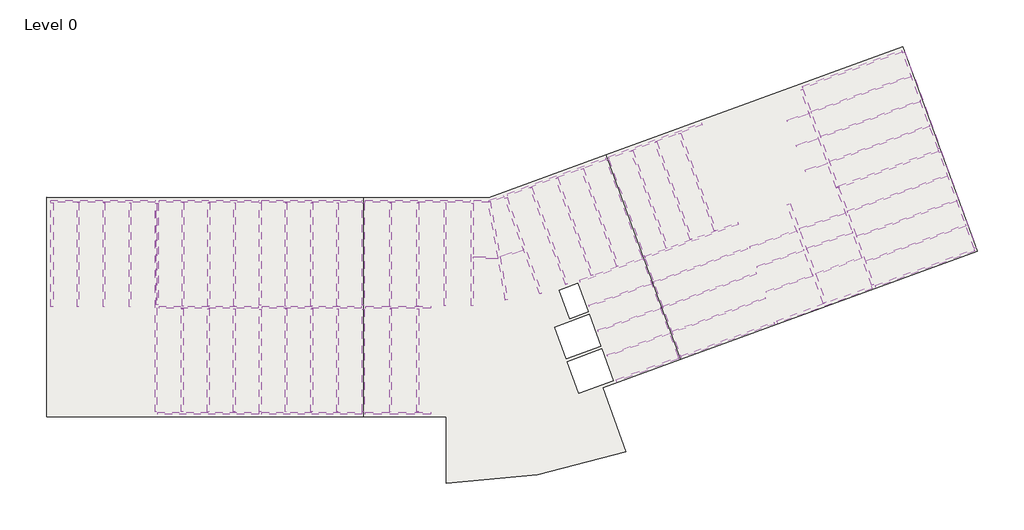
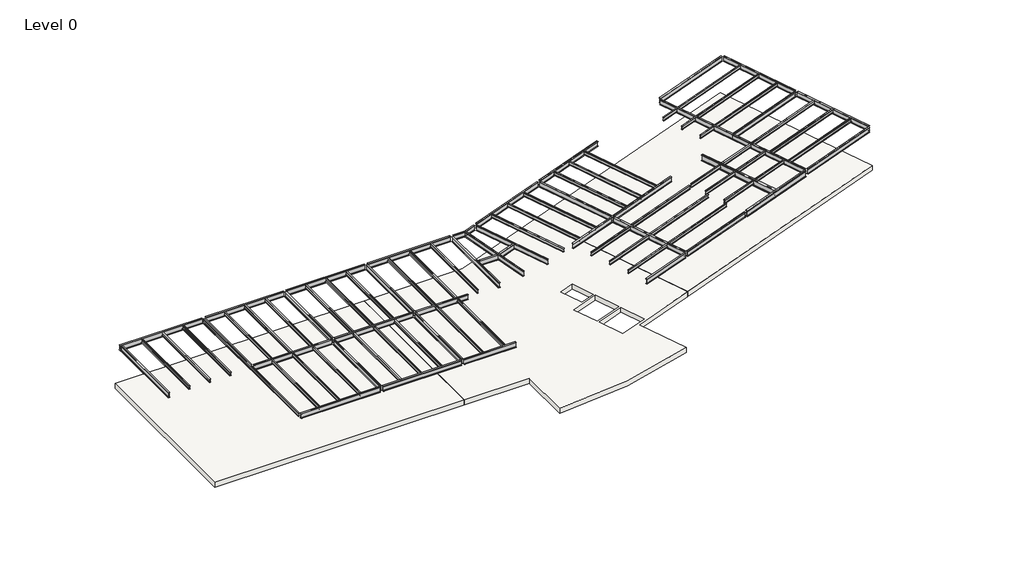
# One storey: 87 beams, 1 slab.
"""IFC4 building model written with IfcOpenShell, lengths in millimetres."""

from ifc_helpers import new_model, si_unit, point, frame, frame_2d, origin, place, context, project, spatial, polyline, circle_curve, trimmed, segment, composite_curve, outline, extrude, transform, mapped, element, save
from components import beam_8f258079, ub_universal_beams_d270934e, ub_universal_beams_e915e172, ub_universal_beams_a95554c7, ub_universal_beams_b6dbdd7a, ub_universal_beams_9ada3ad7, ub_universal_beams_885cc86f, ub_universal_beams_c84566a2, ub_universal_beams_4841b023, ub_universal_beams_bb2d3bd6, ub_universal_beams_20791346, ub_universal_beams_18d3feb0, ub_universal_beams_59459dd6, ub_universal_beams_568b5c51, ub_universal_beams_e00400c9, ub_universal_beams_14baedf7, ub_universal_beams_54dd217e, ub_universal_beams_f823aa85, ub_universal_beams_cdbcbb51, ub_universal_beams_2db27d90, ub_universal_beams_feb0265b, ub_universal_beams_78ad538f, ub_universal_beams_801fcbf0, ub_universal_beams_c91190e6, ub_universal_beams_7192e0ee, ub_universal_beams_e0a47d06, ub_universal_beams_f5dc209c, ub_universal_beams_f862a4b8, ub_universal_beams_0fc11a2d, ub_universal_beams_656765b2, ub_universal_beams_21f5ef47, ub_universal_beams_7b4bcd9a, ub_universal_beams_8d1efc97, ub_universal_beams_2b7a043a, ub_universal_beams_8d2b0bf5, ub_universal_beams_37de3949, ub_universal_beams_43212cfb, ub_universal_beams_777f85ab, ub_universal_beams_8ec85ef7, ub_universal_beams_16a75a32, ub_universal_beams_b9a7bbe5, ub_universal_beams_60794b88, ub_universal_beams_0c249d50

model = new_model("IFC4")

# Units and contexts
model_context = context("Model", 3, world=origin())
ifc_project = project(units=[si_unit("LENGTHUNIT", "METRE", prefix="MILLI")], contexts=[model_context])

# Site, building, storey
site = spatial("IfcSite", under=ifc_project)
building = spatial("IfcBuilding", under=site)
storey = spatial("IfcBuildingStorey", under=building, Name="Level 0", Elevation=0.0)

# Beams
placement = place(None, origin())
beam_shape = beam_8f258079(model_context)
element("IfcBeam", 1, ObjectType="Cranked Beam B1 : Cranked Beam B1", at=placement, inside=storey, context=model_context, shape_type="MappedRepresentation", body=[
    mapped(beam_shape, transform((0.0, 0.0, 0.0), x_axis=(1.0, 0.0, 0.0), y_axis=(0.0, 1.0, 0.0), z_axis=(0.0, 0.0, 1.0))),
])
ub_universal_beams_shape = ub_universal_beams_d270934e(model_context)
element("IfcBeam", 2, ObjectType="UB-Universal Beams : UB 18\" x 6\" x 2 1/2\"", at=placement, inside=storey, context=model_context, shape_type="MappedRepresentation", body=[
    mapped(ub_universal_beams_shape, transform((4212.2000022, 15363.2000005, 3466.0), x_axis=(1.0, 0.0, 0.0), y_axis=(0.0, 1.0, 0.0), z_axis=(0.0, 0.0, 1.0))),
])
ub_universal_beams_2_shape = ub_universal_beams_e915e172(model_context)
element("IfcBeam", 3, ObjectType="UB-Universal Beams : UB 18\" x 6\" x 2 1/2\"", at=placement, inside=storey, context=model_context, shape_type="MappedRepresentation", body=[
    mapped(ub_universal_beams_2_shape, transform((11712.2000023, 15363.2000005, 3466.0), x_axis=(1.0, 0.0, 0.0), y_axis=(0.0, 1.0, 0.0), z_axis=(0.0, 0.0, 1.0))),
])
ub_universal_beams_3_shape = ub_universal_beams_a95554c7(model_context)
element("IfcBeam", 4, ObjectType="UB-Universal Beams : UB 18\" x 6\" x 2 1/2\"", at=placement, inside=storey, context=model_context, shape_type="MappedRepresentation", body=[
    mapped(ub_universal_beams_3_shape, transform((19012.2000023, 15363.2000005, 3466.0), x_axis=(1.0, 0.0, 0.0), y_axis=(0.0, 1.0, 0.0), z_axis=(0.0, 0.0, 1.0))),
])
element("IfcBeam", 5, ObjectType="UB-Universal Beams : UB 18\" x 6\" x 2 1/2\"", at=placement, inside=storey, context=model_context, shape_type="MappedRepresentation", body=[
    mapped(ub_universal_beams_3_shape, transform((19012.2000022, 363.2000005, 3466.0), x_axis=(1.0, 0.0, 0.0), y_axis=(0.0, 1.0, 0.0), z_axis=(0.0, 0.0, 1.0))),
])
ub_universal_beams_4_shape = ub_universal_beams_b6dbdd7a(model_context)
element("IfcBeam", 6, ObjectType="UB-Universal Beams : UB 18\" x 6\" x 2 1/2\"", at=placement, inside=storey, context=model_context, shape_type="MappedRepresentation", body=[
    mapped(ub_universal_beams_4_shape, transform((26512.2000022, 15363.2000005, 3466.0), x_axis=(1.0, 0.0, 0.0), y_axis=(0.0, 1.0, 0.0), z_axis=(0.0, 0.0, 1.0))),
])
ub_universal_beams_5_shape = ub_universal_beams_9ada3ad7(model_context)
element("IfcBeam", 7, ObjectType="UB-Universal Beams : UB 18\" x 6\" x 2 1/2\"", at=placement, inside=storey, context=model_context, shape_type="MappedRepresentation", body=[
    mapped(ub_universal_beams_5_shape, transform((11674.7000023, 7863.2000004, 3466.0), x_axis=(-1.0, 0.0, 0.0), y_axis=(0.0, -1.0, 0.0), z_axis=(0.0, 0.0, 1.0))),
])
ub_universal_beams_6_shape = ub_universal_beams_885cc86f(model_context)
element("IfcBeam", 8, ObjectType="UB-Universal Beams : UB 18\" x 6\" x 2 1/2\"", at=placement, inside=storey, context=model_context, shape_type="MappedRepresentation", body=[
    mapped(ub_universal_beams_6_shape, transform((11674.7000023, 363.2000005, 3466.0), x_axis=(-1.0, 0.0, 0.0), y_axis=(0.0, -1.0, 0.0), z_axis=(0.0, 0.0, 1.0))),
])
ub_universal_beams_7_shape = ub_universal_beams_c84566a2(model_context)
element("IfcBeam", 9, ObjectType="UB-Universal Beams : UB 18\" x 6\" x 2 1/2\"", at=placement, inside=storey, context=model_context, shape_type="MappedRepresentation", body=[
    mapped(ub_universal_beams_7_shape, transform((19012.2000023, 7863.2000004, 3466.0), x_axis=(1.0, 0.0, 0.0), y_axis=(0.0, 1.0, 0.0), z_axis=(0.0, 0.0, 1.0))),
])
ub_universal_beams_8_shape = ub_universal_beams_4841b023(model_context)
element("IfcBeam", 10, ObjectType="UB-Universal Beams : UB 18\" x 6\" x 2 1/2\"", at=placement, inside=storey, context=model_context, shape_type="MappedRepresentation", body=[
    mapped(ub_universal_beams_8_shape, transform((25112.2000025, 7863.2000004, 3466.0), x_axis=(1.0, 0.0, 0.0), y_axis=(0.0, 1.0, 0.0), z_axis=(0.0, 0.0, 1.0))),
])
ub_universal_beams_9_shape = ub_universal_beams_bb2d3bd6(model_context)
element("IfcBeam", 11, ObjectType="UB-Universal Beams : UB 18\" x 6\" x 2 1/2\"", at=placement, inside=storey, context=model_context, shape_type="MappedRepresentation", body=[
    mapped(ub_universal_beams_9_shape, transform((614.1000027, 11575.7000004, 3466.0), x_axis=(0.0, 1.0, 0.0), y_axis=(-1.0, 0.0, 0.0), z_axis=(0.0, 0.0, 1.0))),
])
ub_universal_beams_10_shape = ub_universal_beams_20791346(model_context)
element("IfcBeam", 12, ObjectType="UB-Universal Beams : UB 18\" x 6\" x 2 1/2\"", at=placement, inside=storey, context=model_context, shape_type="MappedRepresentation", body=[
    mapped(ub_universal_beams_10_shape, transform((25112.2000025, 363.2000005, 3466.0), x_axis=(1.0, 0.0, 0.0), y_axis=(0.0, 1.0, 0.0), z_axis=(0.0, 0.0, 1.0))),
])
ub_universal_beams_11_shape = ub_universal_beams_18d3feb0(model_context)
element("IfcBeam", 13, ObjectType="UB-Universal Beams : UB 18\" x 6\" x 2 1/2\"", at=placement, inside=storey, context=model_context, shape_type="MappedRepresentation", body=[
    mapped(ub_universal_beams_11_shape, transform((8062.2000022, 11613.2000005, 3466.0), x_axis=(0.0, 1.0, 0.0), y_axis=(-1.0, 0.0, 0.0), z_axis=(0.0, 0.0, 1.0))),
])
ub_universal_beams_12_shape = ub_universal_beams_59459dd6(model_context)
element("IfcBeam", 14, ObjectType="UB-Universal Beams : UB 18\" x 6\" x 2 1/2\"", at=placement, inside=storey, context=model_context, shape_type="MappedRepresentation", body=[
    mapped(ub_universal_beams_12_shape, transform((15362.2000023, 4113.2000005, 3466.0), x_axis=(0.0, 1.0, 0.0), y_axis=(-1.0, 0.0, 0.0), z_axis=(0.0, 0.0, 1.0))),
])
element("IfcBeam", 15, ObjectType="UB-Universal Beams : UB 18\" x 6\" x 2 1/2\"", at=placement, inside=storey, context=model_context, shape_type="MappedRepresentation", body=[
    mapped(ub_universal_beams_12_shape, transform((22662.2000022, 4113.2000005, 3466.0), x_axis=(0.0, 1.0, 0.0), y_axis=(-1.0, 0.0, 0.0), z_axis=(0.0, 0.0, 1.0))),
])
ub_universal_beams_13_shape = ub_universal_beams_568b5c51(model_context)
element("IfcBeam", 16, ObjectType="UB-Universal Beams : UB 18\" x 6\" x 2 1/2\"", at=placement, inside=storey, context=model_context, shape_type="MappedRepresentation", body=[
    mapped(ub_universal_beams_13_shape, transform((15362.2000023, 11613.2000005, 3466.0), x_axis=(0.0, 1.0, 0.0), y_axis=(-1.0, 0.0, 0.0), z_axis=(0.0, 0.0, 1.0))),
])
element("IfcBeam", 17, ObjectType="UB-Universal Beams : UB 18\" x 6\" x 2 1/2\"", at=placement, inside=storey, context=model_context, shape_type="MappedRepresentation", body=[
    mapped(ub_universal_beams_13_shape, transform((22662.2000022, 11613.2000005, 3466.0), x_axis=(0.0, 1.0, 0.0), y_axis=(-1.0, 0.0, 0.0), z_axis=(0.0, 0.0, 1.0))),
])
ub_universal_beams_14_shape = ub_universal_beams_e00400c9(model_context)
element("IfcBeam", 18, ObjectType="UB-Universal Beams : UB 18\" x 6\" x 2 1/2\"", at=placement, inside=storey, context=model_context, shape_type="MappedRepresentation", body=[
    mapped(ub_universal_beams_14_shape, transform((30362.2000022, 11613.2000005, 3466.0), x_axis=(0.0, 1.0, 0.0), y_axis=(-1.0, 0.0, 0.0), z_axis=(0.0, 0.0, 1.0))),
])
ub_universal_beams_15_shape = ub_universal_beams_14baedf7(model_context)
element("IfcBeam", 19, ObjectType="UB-Universal Beams : UB 12\" x 5\" x 1 1/2\"", at=placement, inside=storey, context=model_context, shape_type="MappedRepresentation", body=[
    mapped(ub_universal_beams_15_shape, transform((2457.6125027, 11575.7000004, 3542.8), x_axis=(0.0, 1.0, 0.0), y_axis=(-1.0, 0.0, 0.0), z_axis=(0.0, 0.0, 1.0))),
])
element("IfcBeam", 20, ObjectType="UB-Universal Beams : UB 12\" x 5\" x 1 1/2\"", at=placement, inside=storey, context=model_context, shape_type="MappedRepresentation", body=[
    mapped(ub_universal_beams_15_shape, transform((4301.1250026, 11575.7000004, 3542.8), x_axis=(0.0, 1.0, 0.0), y_axis=(-1.0, 0.0, 0.0), z_axis=(0.0, 0.0, 1.0))),
])
element("IfcBeam", 21, ObjectType="UB-Universal Beams : UB 12\" x 5\" x 1 1/2\"", at=placement, inside=storey, context=model_context, shape_type="MappedRepresentation", body=[
    mapped(ub_universal_beams_15_shape, transform((6144.6375025, 11575.7000005, 3542.8), x_axis=(0.0, 1.0, 0.0), y_axis=(-1.0, 0.0, 0.0), z_axis=(0.0, 0.0, 1.0))),
])
ub_universal_beams_16_shape = ub_universal_beams_54dd217e(model_context)
element("IfcBeam", 22, ObjectType="UB-Universal Beams : UB 12\" x 5\" x 1 1/2\"", at=placement, inside=storey, context=model_context, shape_type="MappedRepresentation", body=[
    mapped(ub_universal_beams_16_shape, transform((7988.1500025, 7863.2000005, 3542.8), x_axis=(0.0, 1.0, 0.0), y_axis=(-1.0, 0.0, 0.0), z_axis=(0.0, 0.0, 1.0))),
])
ub_universal_beams_17_shape = ub_universal_beams_f823aa85(model_context)
element("IfcBeam", 23, ObjectType="UB-Universal Beams : UB 12\" x 5\" x 1 1/2\"", at=placement, inside=storey, context=model_context, shape_type="MappedRepresentation", body=[
    mapped(ub_universal_beams_17_shape, transform((9831.6625024, 4113.2000005, 3542.8), x_axis=(0.0, 1.0, 0.0), y_axis=(-1.0, 0.0, 0.0), z_axis=(0.0, 0.0, 1.0))),
])
element("IfcBeam", 24, ObjectType="UB-Universal Beams : UB 12\" x 5\" x 1 1/2\"", at=placement, inside=storey, context=model_context, shape_type="MappedRepresentation", body=[
    mapped(ub_universal_beams_17_shape, transform((11675.1750024, 4113.2000005, 3542.8), x_axis=(0.0, 1.0, 0.0), y_axis=(-1.0, 0.0, 0.0), z_axis=(0.0, 0.0, 1.0))),
])
element("IfcBeam", 25, ObjectType="UB-Universal Beams : UB 12\" x 5\" x 1 1/2\"", at=placement, inside=storey, context=model_context, shape_type="MappedRepresentation", body=[
    mapped(ub_universal_beams_17_shape, transform((13518.6875023, 4113.2000005, 3542.8), x_axis=(0.0, 1.0, 0.0), y_axis=(-1.0, 0.0, 0.0), z_axis=(0.0, 0.0, 1.0))),
])
element("IfcBeam", 26, ObjectType="UB-Universal Beams : UB 12\" x 5\" x 1 1/2\"", at=placement, inside=storey, context=model_context, shape_type="MappedRepresentation", body=[
    mapped(ub_universal_beams_17_shape, transform((9887.2000022, 11613.2000005, 3542.8), x_axis=(0.0, 1.0, 0.0), y_axis=(-1.0, 0.0, 0.0), z_axis=(0.0, 0.0, 1.0))),
])
element("IfcBeam", 27, ObjectType="UB-Universal Beams : UB 12\" x 5\" x 1 1/2\"", at=placement, inside=storey, context=model_context, shape_type="MappedRepresentation", body=[
    mapped(ub_universal_beams_17_shape, transform((11712.2000022, 11613.2000005, 3542.8), x_axis=(0.0, 1.0, 0.0), y_axis=(-1.0, 0.0, 0.0), z_axis=(0.0, 0.0, 1.0))),
])
element("IfcBeam", 28, ObjectType="UB-Universal Beams : UB 12\" x 5\" x 1 1/2\"", at=placement, inside=storey, context=model_context, shape_type="MappedRepresentation", body=[
    mapped(ub_universal_beams_17_shape, transform((13537.2000023, 11613.2000005, 3542.8), x_axis=(0.0, 1.0, 0.0), y_axis=(-1.0, 0.0, 0.0), z_axis=(0.0, 0.0, 1.0))),
])
element("IfcBeam", 29, ObjectType="UB-Universal Beams : UB 12\" x 5\" x 1 1/2\"", at=placement, inside=storey, context=model_context, shape_type="MappedRepresentation", body=[
    mapped(ub_universal_beams_17_shape, transform((17187.2000023, 11613.2000005, 3542.8), x_axis=(0.0, 1.0, 0.0), y_axis=(-1.0, 0.0, 0.0), z_axis=(0.0, 0.0, 1.0))),
])
element("IfcBeam", 30, ObjectType="UB-Universal Beams : UB 12\" x 5\" x 1 1/2\"", at=placement, inside=storey, context=model_context, shape_type="MappedRepresentation", body=[
    mapped(ub_universal_beams_17_shape, transform((19012.2000023, 11613.2000005, 3542.8), x_axis=(0.0, 1.0, 0.0), y_axis=(-1.0, 0.0, 0.0), z_axis=(0.0, 0.0, 1.0))),
])
element("IfcBeam", 31, ObjectType="UB-Universal Beams : UB 12\" x 5\" x 1 1/2\"", at=placement, inside=storey, context=model_context, shape_type="MappedRepresentation", body=[
    mapped(ub_universal_beams_17_shape, transform((20837.2000022, 11613.2000005, 3542.8), x_axis=(0.0, 1.0, 0.0), y_axis=(-1.0, 0.0, 0.0), z_axis=(0.0, 0.0, 1.0))),
])
element("IfcBeam", 32, ObjectType="UB-Universal Beams : UB 12\" x 5\" x 1 1/2\"", at=placement, inside=storey, context=model_context, shape_type="MappedRepresentation", body=[
    mapped(ub_universal_beams_17_shape, transform((24587.2000022, 11613.2000005, 3542.8), x_axis=(0.0, 1.0, 0.0), y_axis=(-1.0, 0.0, 0.0), z_axis=(0.0, 0.0, 1.0))),
])
element("IfcBeam", 33, ObjectType="UB-Universal Beams : UB 12\" x 5\" x 1 1/2\"", at=placement, inside=storey, context=model_context, shape_type="MappedRepresentation", body=[
    mapped(ub_universal_beams_17_shape, transform((26512.2000022, 11613.2000005, 3542.8), x_axis=(0.0, 1.0, 0.0), y_axis=(-1.0, 0.0, 0.0), z_axis=(0.0, 0.0, 1.0))),
])
element("IfcBeam", 34, ObjectType="UB-Universal Beams : UB 12\" x 5\" x 1 1/2\"", at=placement, inside=storey, context=model_context, shape_type="MappedRepresentation", body=[
    mapped(ub_universal_beams_17_shape, transform((17187.2000022, 4113.2000005, 3542.8), x_axis=(0.0, 1.0, 0.0), y_axis=(-1.0, 0.0, 0.0), z_axis=(0.0, 0.0, 1.0))),
])
element("IfcBeam", 35, ObjectType="UB-Universal Beams : UB 12\" x 5\" x 1 1/2\"", at=placement, inside=storey, context=model_context, shape_type="MappedRepresentation", body=[
    mapped(ub_universal_beams_17_shape, transform((19012.2000022, 4113.2000005, 3542.8), x_axis=(0.0, 1.0, 0.0), y_axis=(-1.0, 0.0, 0.0), z_axis=(0.0, 0.0, 1.0))),
])
element("IfcBeam", 36, ObjectType="UB-Universal Beams : UB 12\" x 5\" x 1 1/2\"", at=placement, inside=storey, context=model_context, shape_type="MappedRepresentation", body=[
    mapped(ub_universal_beams_17_shape, transform((20837.2000022, 4113.2000005, 3542.8), x_axis=(0.0, 1.0, 0.0), y_axis=(-1.0, 0.0, 0.0), z_axis=(0.0, 0.0, 1.0))),
])
element("IfcBeam", 37, ObjectType="UB-Universal Beams : UB 12\" x 5\" x 1 1/2\"", at=placement, inside=storey, context=model_context, shape_type="MappedRepresentation", body=[
    mapped(ub_universal_beams_17_shape, transform((24587.2000022, 4113.2000004, 3542.8), x_axis=(0.0, 1.0, 0.0), y_axis=(-1.0, 0.0, 0.0), z_axis=(0.0, 0.0, 1.0))),
])
element("IfcBeam", 38, ObjectType="UB-Universal Beams : UB 12\" x 5\" x 1 1/2\"", at=placement, inside=storey, context=model_context, shape_type="MappedRepresentation", body=[
    mapped(ub_universal_beams_17_shape, transform((26512.2000022, 4113.2000004, 3542.8), x_axis=(0.0, 1.0, 0.0), y_axis=(-1.0, 0.0, 0.0), z_axis=(0.0, 0.0, 1.0))),
])
element("IfcBeam", 39, ObjectType="UB-Universal Beams : UB 12\" x 5\" x 1 1/2\"", at=placement, inside=storey, context=model_context, shape_type="MappedRepresentation", body=[
    mapped(ub_universal_beams_17_shape, transform((39409.0148654, 14226.6858637, 3542.8), x_axis=(0.34202014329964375, -0.9396926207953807, 0.0), y_axis=(0.9396926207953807, 0.34202014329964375, 0.0), z_axis=(0.0, 0.0, 1.0))),
])
element("IfcBeam", 40, ObjectType="UB-Universal Beams : UB 12\" x 5\" x 1 1/2\"", at=placement, inside=storey, context=model_context, shape_type="MappedRepresentation", body=[
    mapped(ub_universal_beams_17_shape, transform((37600.1065704, 13568.2970878, 3542.8), x_axis=(0.34202014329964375, -0.9396926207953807, 0.0), y_axis=(0.9396926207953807, 0.34202014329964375, 0.0), z_axis=(0.0, 0.0, 1.0))),
])
element("IfcBeam", 41, ObjectType="UB-Universal Beams : UB 12\" x 5\" x 1 1/2\"", at=placement, inside=storey, context=model_context, shape_type="MappedRepresentation", body=[
    mapped(ub_universal_beams_17_shape, transform((42915.2429568, 15502.8485233, 3542.8), x_axis=(-0.3420201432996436, 0.9396926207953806, 0.0), y_axis=(-0.9396926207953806, -0.3420201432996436, 0.0), z_axis=(0.0, 0.0, 1.0))),
])
element("IfcBeam", 42, ObjectType="UB-Universal Beams : UB 12\" x 5\" x 1 1/2\"", at=placement, inside=storey, context=model_context, shape_type="MappedRepresentation", body=[
    mapped(ub_universal_beams_17_shape, transform((44612.5627531, 16120.6224071, 3542.8), x_axis=(-0.34202014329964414, 0.9396926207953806, 0.0), y_axis=(-0.9396926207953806, -0.34202014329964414, 0.0), z_axis=(0.0, 0.0, 1.0))),
])
element("IfcBeam", 43, ObjectType="UB-Universal Beams : UB 12\" x 5\" x 1 1/2\"", at=placement, inside=storey, context=model_context, shape_type="MappedRepresentation", body=[
    mapped(ub_universal_beams_17_shape, transform((46309.8825494, 16738.396291, 3542.8), x_axis=(-0.34202014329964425, 0.9396926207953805, 0.0), y_axis=(-0.9396926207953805, -0.34202014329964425, 0.0), z_axis=(0.0, 0.0, 1.0))),
])
ub_universal_beams_18_shape = ub_universal_beams_cdbcbb51(model_context)
element("IfcBeam", 44, ObjectType="UB-Universal Beams : UB 12\" x 5\" x 1 1/2\"", at=placement, inside=storey, context=model_context, shape_type="MappedRepresentation", body=[
    mapped(ub_universal_beams_18_shape, transform((28437.2000022, 11613.2000005, 3542.8), x_axis=(0.0, 1.0, 0.0), y_axis=(-1.0, 0.0, 0.0), z_axis=(0.0, 0.0, 1.0))),
])
ub_universal_beams_19_shape = ub_universal_beams_2db27d90(model_context)
element("IfcBeam", 45, ObjectType="UB-Universal Beams : UB 18\" x 6\" x 2 1/2\"", at=placement, inside=storey, context=model_context, shape_type="MappedRepresentation", body=[
    mapped(ub_universal_beams_19_shape, transform((33982.2899804, 12251.5195361, 3466.0), x_axis=(0.3420201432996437, -0.9396926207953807, 0.0), y_axis=(0.9396926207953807, 0.3420201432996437, 0.0), z_axis=(0.0, 0.0, 1.0))),
])
ub_universal_beams_20_shape = ub_universal_beams_feb0265b(model_context)
element("IfcBeam", 46, ObjectType="UB-Universal Beams : UB 18\" x 6\" x 2 1/2\"", at=placement, inside=storey, context=model_context, shape_type="MappedRepresentation", body=[
    mapped(ub_universal_beams_20_shape, transform((32191.7898055, 11821.5156209, 3466.0), x_axis=(0.173648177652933, -0.9848077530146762, 0.0), y_axis=(0.9848077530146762, 0.173648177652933, 0.0), z_axis=(0.0, 0.0, 1.0))),
])
ub_universal_beams_21_shape = ub_universal_beams_78ad538f(model_context)
element("IfcBeam", 47, ObjectType="UB-Universal Beams : UB 18\" x 6\" x 2 1/2\"", at=placement, inside=storey, context=model_context, shape_type="MappedRepresentation", body=[
    mapped(ub_universal_beams_21_shape, transform((31317.5755278, 11361.2273115, 3466.0), x_axis=(1.0, 0.0, 0.0), y_axis=(0.0, 1.0, 0.0), z_axis=(0.0, 0.0, 1.0))),
])
ub_universal_beams_22_shape = ub_universal_beams_801fcbf0(model_context)
element("IfcBeam", 48, ObjectType="UB-Universal Beams : UB 18\" x 6\" x 2 1/2\"", at=placement, inside=storey, context=model_context, shape_type="MappedRepresentation", body=[
    mapped(ub_universal_beams_22_shape, transform((33170.7103845, 11687.9849855, 3466.0), x_axis=(0.9396926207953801, 0.3420201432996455, 0.0), y_axis=(-0.3420201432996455, 0.9396926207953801, 0.0), z_axis=(0.0, 0.0, 1.0))),
])
ub_universal_beams_23_shape = ub_universal_beams_c91190e6(model_context)
element("IfcBeam", 49, ObjectType="UB-Universal Beams : UB 18\" x 6\" x 2 1/2\"", at=placement, inside=storey, context=model_context, shape_type="MappedRepresentation", body=[
    mapped(ub_universal_beams_23_shape, transform((36317.5310328, 17092.1444158, 3466.0), x_axis=(0.9396926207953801, 0.3420201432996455, 0.0), y_axis=(-0.3420201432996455, 0.9396926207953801, 0.0), z_axis=(0.0, 0.0, 1.0))),
])
ub_universal_beams_24_shape = ub_universal_beams_7192e0ee(model_context)
element("IfcBeam", 50, ObjectType="UB-Universal Beams : UB 18\" x 6\" x 2 1/2\"", at=placement, inside=storey, context=model_context, shape_type="MappedRepresentation", body=[
    mapped(ub_universal_beams_24_shape, transform((43329.9872158, 19644.4697351, 3466.0), x_axis=(0.9396926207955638, 0.3420201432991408, 0.0), y_axis=(-0.3420201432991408, 0.9396926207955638, 0.0), z_axis=(0.0, 0.0, 1.0))),
])
element("IfcBeam", 51, ObjectType="UB-Universal Beams : UB 18\" x 6\" x 2 1/2\"", at=placement, inside=storey, context=model_context, shape_type="MappedRepresentation", body=[
    mapped(ub_universal_beams_24_shape, transform((45895.1382905, 12596.7750792, 3466.0), x_axis=(0.9396926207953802, 0.34202014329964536, 0.0), y_axis=(-0.34202014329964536, 0.9396926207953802, 0.0), z_axis=(0.0, 0.0, 1.0))),
])
element("IfcBeam", 52, ObjectType="UB-Universal Beams : UB 18\" x 6\" x 2 1/2\"", at=placement, inside=storey, context=model_context, shape_type="MappedRepresentation", body=[
    mapped(ub_universal_beams_24_shape, transform((48460.2893652, 5549.0804232, 3466.0), x_axis=(0.9396926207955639, 0.3420201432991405, 0.0), y_axis=(-0.3420201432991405, 0.9396926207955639, 0.0), z_axis=(0.0, 0.0, 1.0))),
])
ub_universal_beams_25_shape = ub_universal_beams_e0a47d06(model_context)
element("IfcBeam", 53, ObjectType="UB-Universal Beams : UB 18\" x 6\" x 2 1/2\"", at=placement, inside=storey, context=model_context, shape_type="MappedRepresentation", body=[
    mapped(ub_universal_beams_25_shape, transform((40198.2517768, 10523.2779603, 3466.0), x_axis=(0.9396926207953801, 0.34202014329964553, 0.0), y_axis=(-0.34202014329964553, 0.9396926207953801, 0.0), z_axis=(0.0, 0.0, 1.0))),
])
ub_universal_beams_26_shape = ub_universal_beams_f5dc209c(model_context)
element("IfcBeam", 54, ObjectType="UB-Universal Beams : UB 18\" x 6\" x 2 1/2\"", at=placement, inside=storey, context=model_context, shape_type="MappedRepresentation", body=[
    mapped(ub_universal_beams_26_shape, transform((41217.9231605, 14885.0746394, 3466.0), x_axis=(-0.3420201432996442, 0.9396926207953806, 0.0), y_axis=(-0.9396926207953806, -0.3420201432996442, 0.0), z_axis=(0.0, 0.0, 1.0))),
])
element("IfcBeam", 55, ObjectType="UB-Universal Beams : UB 18\" x 6\" x 2 1/2\"", at=placement, inside=storey, context=model_context, shape_type="MappedRepresentation", body=[
    mapped(ub_universal_beams_26_shape, transform((43783.0742352, 7837.3799835, 3466.0), x_axis=(-0.3420201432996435, 0.939692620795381, 0.0), y_axis=(-0.939692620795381, -0.3420201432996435, 0.0), z_axis=(0.0, 0.0, 1.0))),
])
ub_universal_beams_27_shape = ub_universal_beams_f862a4b8(model_context)
element("IfcBeam", 56, ObjectType="UB-Universal Beams : UB 18\" x 6\" x 2 1/2\"", at=placement, inside=storey, context=model_context, shape_type="MappedRepresentation", body=[
    mapped(ub_universal_beams_27_shape, transform((42763.4028515, 3475.5833044, 3466.0), x_axis=(-0.9396926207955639, -0.34202014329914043, 0.0), y_axis=(0.34202014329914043, -0.9396926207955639, 0.0), z_axis=(0.0, 0.0, 1.0))),
])
ub_universal_beams_28_shape = ub_universal_beams_0fc11a2d(model_context)
element("IfcBeam", 57, ObjectType="UB-Universal Beams : UB 20 1/2\" x 8 1/2\" x 3 1/2\"", at=placement, inside=storey, context=model_context, shape_type="MappedRepresentation", body=[
    mapped(ub_universal_beams_28_shape, transform((55320.045497, 8045.8274693, 3430.85), x_axis=(0.9396926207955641, 0.3420201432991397, 0.0), y_axis=(-0.3420201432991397, 0.9396926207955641, 0.0), z_axis=(0.0, 0.0, 1.0))),
])
ub_universal_beams_29_shape = ub_universal_beams_656765b2(model_context)
element("IfcBeam", 58, ObjectType="UB-Universal Beams : UB 18\" x 6\" x 2 1/2\"", at=placement, inside=storey, context=model_context, shape_type="MappedRepresentation", body=[
    mapped(ub_universal_beams_29_shape, transform((62402.9786263, 10623.8042994, 3466.0), x_axis=(0.9396926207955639, 0.34202014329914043, 0.0), y_axis=(-0.34202014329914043, 0.9396926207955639, 0.0), z_axis=(0.0, 0.0, 1.0))),
])
element("IfcBeam", 59, ObjectType="UB-Universal Beams : UB 18\" x 6\" x 2 1/2\"", at=placement, inside=storey, context=model_context, shape_type="MappedRepresentation", body=[
    mapped(ub_universal_beams_26_shape, transform((64738.219679, 15464.4291791, 3466.0), x_axis=(-0.34202014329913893, 0.9396926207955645, 0.0), y_axis=(-0.9396926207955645, -0.34202014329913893, 0.0), z_axis=(0.0, 0.0, 1.0))),
])
element("IfcBeam", 60, ObjectType="UB-Universal Beams : UB 18\" x 6\" x 2 1/2\"", at=placement, inside=storey, context=model_context, shape_type="MappedRepresentation", body=[
    mapped(ub_universal_beams_26_shape, transform((62173.0686043, 22512.123835, 3466.0), x_axis=(-0.3420201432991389, 0.9396926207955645, 0.0), y_axis=(-0.9396926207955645, -0.3420201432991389, 0.0), z_axis=(0.0, 0.0, 1.0))),
])
ub_universal_beams_30_shape = ub_universal_beams_21f5ef47(model_context)
element("IfcBeam", 61, ObjectType="UB-Universal Beams : UB 18\" x 6\" x 2 1/2\"", at=placement, inside=storey, context=model_context, shape_type="MappedRepresentation", body=[
    mapped(ub_universal_beams_30_shape, transform((57272.6764768, 24719.1936113, 3466.0), x_axis=(-0.9396926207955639, -0.3420201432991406, 0.0), y_axis=(0.3420201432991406, -0.9396926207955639, 0.0), z_axis=(0.0, 0.0, 1.0))),
])
ub_universal_beams_31_shape = ub_universal_beams_7b4bcd9a(model_context)
element("IfcBeam", 62, ObjectType="UB-Universal Beams : UB 18\" x 6\" x 2 1/2\"", at=placement, inside=storey, context=model_context, shape_type="MappedRepresentation", body=[
    mapped(ub_universal_beams_31_shape, transform((54937.4354241, 19878.5687316, 3466.0), x_axis=(-0.3420201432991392, 0.9396926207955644, 0.0), y_axis=(-0.9396926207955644, -0.3420201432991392, 0.0), z_axis=(0.0, 0.0, 1.0))),
])
ub_universal_beams_32_shape = ub_universal_beams_8d1efc97(model_context)
element("IfcBeam", 63, ObjectType="UB-Universal Beams : UB 12\" x 5\" x 1 1/2\"", at=placement, inside=storey, context=model_context, shape_type="MappedRepresentation", body=[
    mapped(ub_universal_beams_32_shape, transform((35791.1982754, 12909.908312, 3542.8), x_axis=(0.3420201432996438, -0.9396926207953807, 0.0), y_axis=(0.9396926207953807, 0.3420201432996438, 0.0), z_axis=(0.0, 0.0, 1.0))),
])
ub_universal_beams_33_shape = ub_universal_beams_2b7a043a(model_context)
element("IfcBeam", 64, ObjectType="UB-Universal Beams : UB 12\" x 5\" x 1 1/2\"", at=placement, inside=storey, context=model_context, shape_type="MappedRepresentation", body=[
    mapped(ub_universal_beams_33_shape, transform((42122.1150828, 5237.5069684, 3542.8), x_axis=(-0.939692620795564, -0.3420201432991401, 0.0), y_axis=(0.3420201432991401, -0.939692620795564, 0.0), z_axis=(0.0, 0.0, 1.0))),
])
element("IfcBeam", 65, ObjectType="UB-Universal Beams : UB 12\" x 5\" x 1 1/2\"", at=placement, inside=storey, context=model_context, shape_type="MappedRepresentation", body=[
    mapped(ub_universal_beams_33_shape, transform((41480.8273141, 6999.4306323, 3542.8), x_axis=(-0.9396926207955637, -0.3420201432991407, 0.0), y_axis=(0.3420201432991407, -0.9396926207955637, 0.0), z_axis=(0.0, 0.0, 1.0))),
])
element("IfcBeam", 66, ObjectType="UB-Universal Beams : UB 12\" x 5\" x 1 1/2\"", at=placement, inside=storey, context=model_context, shape_type="MappedRepresentation", body=[
    mapped(ub_universal_beams_33_shape, transform((40839.5395455, 8761.3542963, 3542.8), x_axis=(-0.939692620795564, -0.3420201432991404, 0.0), y_axis=(0.3420201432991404, -0.939692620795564, 0.0), z_axis=(0.0, 0.0, 1.0))),
])
ub_universal_beams_34_shape = ub_universal_beams_8d2b0bf5(model_context)
element("IfcBeam", 67, ObjectType="UB-Universal Beams : UB 12\" x 5\" x 1 1/2\"", at=placement, inside=storey, context=model_context, shape_type="MappedRepresentation", body=[
    mapped(ub_universal_beams_34_shape, transform((46536.4260592, 10834.8514152, 3542.8), x_axis=(0.9396926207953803, 0.342020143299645, 0.0), y_axis=(-0.342020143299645, 0.9396926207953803, 0.0), z_axis=(0.0, 0.0, 1.0))),
])
element("IfcBeam", 68, ObjectType="UB-Universal Beams : UB 12\" x 5\" x 1 1/2\"", at=placement, inside=storey, context=model_context, shape_type="MappedRepresentation", body=[
    mapped(ub_universal_beams_34_shape, transform((47177.7138279, 9072.9277512, 3542.8), x_axis=(0.9396926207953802, 0.34202014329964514, 0.0), y_axis=(-0.34202014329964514, 0.9396926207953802, 0.0), z_axis=(0.0, 0.0, 1.0))),
])
element("IfcBeam", 69, ObjectType="UB-Universal Beams : UB 12\" x 5\" x 1 1/2\"", at=placement, inside=storey, context=model_context, shape_type="MappedRepresentation", body=[
    mapped(ub_universal_beams_34_shape, transform((47819.0015966, 7311.0040872, 3542.8), x_axis=(0.9396926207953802, 0.3420201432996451, 0.0), y_axis=(-0.3420201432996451, 0.9396926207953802, 0.0), z_axis=(0.0, 0.0, 1.0))),
])
ub_universal_beams_35_shape = ub_universal_beams_37de3949(model_context)
element("IfcBeam", 70, ObjectType="UB-Universal Beams : UB 18\" x 6\" x 2 1/2\"", at=placement, inside=storey, context=model_context, shape_type="MappedRepresentation", body=[
    mapped(ub_universal_beams_35_shape, transform((59849.5737093, 17675.7742072, 3466.0), x_axis=(0.9396926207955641, 0.3420201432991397, 0.0), y_axis=(-0.3420201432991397, 0.9396926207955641, 0.0), z_axis=(0.0, 0.0, 1.0))),
])
ub_universal_beams_36_shape = ub_universal_beams_43212cfb(model_context)
element("IfcBeam", 71, ObjectType="UB-Universal Beams : UB 18\" x 6\" x 2 1/2\"", at=placement, inside=storey, context=model_context, shape_type="MappedRepresentation", body=[
    mapped(ub_universal_beams_36_shape, transform((57502.5864988, 12830.8740757, 3466.0), x_axis=(0.3420201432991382, -0.9396926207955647, 0.0), y_axis=(0.9396926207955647, 0.3420201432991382, 0.0), z_axis=(0.0, 0.0, 1.0))),
])
ub_universal_beams_37_shape = ub_universal_beams_777f85ab(model_context)
element("IfcBeam", 72, ObjectType="UB-Universal Beams : UB 12\" x 5\" x 1 1/2\"", at=placement, inside=storey, context=model_context, shape_type="MappedRepresentation", body=[
    mapped(ub_universal_beams_37_shape, transform((60479.1153202, 15909.5752914, 3542.8), x_axis=(0.9396926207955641, 0.34202014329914, 0.0), y_axis=(-0.34202014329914, 0.9396926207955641, 0.0), z_axis=(0.0, 0.0, 1.0))),
])
element("IfcBeam", 73, ObjectType="UB-Universal Beams : UB 12\" x 5\" x 1 1/2\"", at=placement, inside=storey, context=model_context, shape_type="MappedRepresentation", body=[
    mapped(ub_universal_beams_37_shape, transform((61120.4030889, 14147.6516274, 3542.8), x_axis=(0.9396926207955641, 0.34202014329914, 0.0), y_axis=(-0.34202014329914, 0.9396926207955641, 0.0), z_axis=(0.0, 0.0, 1.0))),
])
element("IfcBeam", 74, ObjectType="UB-Universal Beams : UB 12\" x 5\" x 1 1/2\"", at=placement, inside=storey, context=model_context, shape_type="MappedRepresentation", body=[
    mapped(ub_universal_beams_37_shape, transform((61761.6908576, 12385.7279634, 3542.8), x_axis=(0.9396926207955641, 0.3420201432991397, 0.0), y_axis=(-0.3420201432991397, 0.9396926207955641, 0.0), z_axis=(0.0, 0.0, 1.0))),
])
element("IfcBeam", 75, ObjectType="UB-Universal Beams : UB 12\" x 5\" x 1 1/2\"", at=placement, inside=storey, context=model_context, shape_type="MappedRepresentation", body=[
    mapped(ub_universal_beams_37_shape, transform((57913.9642455, 22957.2699473, 3542.8), x_axis=(0.9396926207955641, 0.3420201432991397, 0.0), y_axis=(-0.3420201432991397, 0.9396926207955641, 0.0), z_axis=(0.0, 0.0, 1.0))),
])
element("IfcBeam", 76, ObjectType="UB-Universal Beams : UB 12\" x 5\" x 1 1/2\"", at=placement, inside=storey, context=model_context, shape_type="MappedRepresentation", body=[
    mapped(ub_universal_beams_37_shape, transform((58555.2520142, 21195.3462833, 3542.8), x_axis=(0.9396926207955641, 0.3420201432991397, 0.0), y_axis=(-0.3420201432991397, 0.9396926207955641, 0.0), z_axis=(0.0, 0.0, 1.0))),
])
element("IfcBeam", 77, ObjectType="UB-Universal Beams : UB 12\" x 5\" x 1 1/2\"", at=placement, inside=storey, context=model_context, shape_type="MappedRepresentation", body=[
    mapped(ub_universal_beams_37_shape, transform((59196.5397829, 19433.4226193, 3542.8), x_axis=(0.9396926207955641, 0.3420201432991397, 0.0), y_axis=(-0.3420201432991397, 0.9396926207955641, 0.0), z_axis=(0.0, 0.0, 1.0))),
])
ub_universal_beams_38_shape = ub_universal_beams_8ec85ef7(model_context)
element("IfcBeam", 78, ObjectType="UB-Universal Beams : UB 20 1/2\" x 8 1/2\" x 3 1/2\"", at=placement, inside=storey, context=model_context, shape_type="MappedRepresentation", body=[
    mapped(ub_universal_beams_38_shape, transform((54042.3541451, 11665.8982726, 3430.85), x_axis=(-0.34202014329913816, 0.9396926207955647, 0.0), y_axis=(-0.9396926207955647, -0.34202014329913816, 0.0), z_axis=(0.0, 0.0, 1.0))),
])
ub_universal_beams_39_shape = ub_universal_beams_16a75a32(model_context)
element("IfcBeam", 79, ObjectType="UB-Universal Beams : UB 12\" x 5\" x 1 1/2\"", at=placement, inside=storey, context=model_context, shape_type="MappedRepresentation", body=[
    mapped(ub_universal_beams_39_shape, transform((52185.7228693, 11321.365084, 3542.8), x_axis=(0.9396926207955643, 0.3420201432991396, 0.0), y_axis=(-0.3420201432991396, 0.9396926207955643, 0.0), z_axis=(0.0, 0.0, 1.0))),
])
element("IfcBeam", 80, ObjectType="UB-Universal Beams : UB 12\" x 5\" x 1 1/2\"", at=placement, inside=storey, context=model_context, shape_type="MappedRepresentation", body=[
    mapped(ub_universal_beams_39_shape, transform((51681.2431579, 12707.4116997, 3542.8), x_axis=(0.9396926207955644, 0.34202014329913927, 0.0), y_axis=(-0.34202014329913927, 0.9396926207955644, 0.0), z_axis=(0.0, 0.0, 1.0))),
])
ub_universal_beams_40_shape = ub_universal_beams_b9a7bbe5(model_context)
element("IfcBeam", 81, ObjectType="UB-Universal Beams : UB 12\" x 5\" x 1 1/2\"", at=placement, inside=storey, context=model_context, shape_type="MappedRepresentation", body=[
    mapped(ub_universal_beams_40_shape, transform((55650.8394085, 12582.5643624, 3542.8), x_axis=(0.939692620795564, 0.34202014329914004, 0.0), y_axis=(-0.34202014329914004, 0.939692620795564, 0.0), z_axis=(0.0, 0.0, 1.0))),
])
element("IfcBeam", 82, ObjectType="UB-Universal Beams : UB 12\" x 5\" x 1 1/2\"", at=placement, inside=storey, context=model_context, shape_type="MappedRepresentation", body=[
    mapped(ub_universal_beams_40_shape, transform((56300.6776807, 10797.1483829, 3542.8), x_axis=(0.9396926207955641, 0.3420201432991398, 0.0), y_axis=(-0.3420201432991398, 0.9396926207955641, 0.0), z_axis=(0.0, 0.0, 1.0))),
])
element("IfcBeam", 83, ObjectType="UB-Universal Beams : UB 12\" x 5\" x 1 1/2\"", at=placement, inside=storey, context=model_context, shape_type="MappedRepresentation", body=[
    mapped(ub_universal_beams_40_shape, transform((55146.3596971, 13968.6109781, 3542.8), x_axis=(0.9396926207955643, 0.34202014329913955, 0.0), y_axis=(-0.34202014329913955, 0.9396926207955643, 0.0), z_axis=(0.0, 0.0, 1.0))),
])
ub_universal_beams_41_shape = ub_universal_beams_60794b88(model_context)
element("IfcBeam", 84, ObjectType="UB-Universal Beams : UB 12\" x 5\" x 1 1/2\"", at=placement, inside=storey, context=model_context, shape_type="MappedRepresentation", body=[
    mapped(ub_universal_beams_41_shape, transform((53431.3248942, 21325.7226526, 3542.8), x_axis=(-0.939692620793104, -0.34202014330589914, 0.0), y_axis=(0.34202014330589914, -0.939692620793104, 0.0), z_axis=(0.0, 0.0, 1.0))),
])
element("IfcBeam", 85, ObjectType="UB-Universal Beams : UB 12\" x 5\" x 1 1/2\"", at=placement, inside=storey, context=model_context, shape_type="MappedRepresentation", body=[
    mapped(ub_universal_beams_41_shape, transform((54072.6126629, 19563.7989886, 3542.8), x_axis=(-0.939692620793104, -0.3420201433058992, 0.0), y_axis=(0.3420201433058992, -0.939692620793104, 0.0), z_axis=(0.0, 0.0, 1.0))),
])
element("IfcBeam", 86, ObjectType="UB-Universal Beams : UB 12\" x 5\" x 1 1/2\"", at=placement, inside=storey, context=model_context, shape_type="MappedRepresentation", body=[
    mapped(ub_universal_beams_41_shape, transform((54713.9004316, 17801.8753247, 3542.8), x_axis=(-0.939692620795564, -0.34202014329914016, 0.0), y_axis=(0.34202014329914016, -0.939692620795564, 0.0), z_axis=(0.0, 0.0, 1.0))),
])
ub_universal_beams_42_shape = ub_universal_beams_0c249d50(model_context)
element("IfcBeam", 87, ObjectType="UB-Universal Beams : UB 12\" x 5\" x 1 1/2\"", at=placement, inside=storey, context=model_context, shape_type="MappedRepresentation", body=[
    mapped(ub_universal_beams_42_shape, transform((52835.5611416, 9535.9491045, 3542.8), x_axis=(-0.9396926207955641, -0.34202014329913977, 0.0), y_axis=(0.34202014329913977, -0.9396926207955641, 0.0), z_axis=(0.0, 0.0, 1.0))),
])

# Slab
element("IfcSlab", 88, ObjectType="RC SLAB 450", at=placement, inside=storey, context=model_context, shape_type="SweptSolid", body=[
    extrude(outline(polyline([(39843.0335603, 18662.5527704), (60858.4270053, 26321.4287396), (66134.3988231, 11825.8153033), (45115.8241276, 4175.6797481), (39843.0335603, 18662.5527704)])), frame((0.0, 0.0, -455.0), z_axis=(0.0, 0.0, 1.0), x_axis=(1.0, 0.0, 0.0)), (0.0, 0.0, 1.0), 450.0),
    extrude(outline(polyline([(22662.2000022, 113.0000007), (233.0, 113.0000007), (233.0000025, 15642.4730131), (22662.2000023, 15633.1189992), (22662.2000022, 113.0000007)])), frame((0.0, 0.0, -455.0), z_axis=(0.0, 0.0, 1.0), x_axis=(1.0, 0.0, 0.0)), (0.0, 0.0, 1.0), 450.0),
    extrude(outline(composite_curve([segment(polyline([(39592.6147142, 2165.3959242), (41238.0521583, -2355.4062989)]), True, "CONTINUOUS"), segment(trimmed(circle_curve(frame_2d((28251.8766926, 34165.8732259)), 38761.3804108), [point((41238.0521583, -2355.4062989))], [point((28539.8766928, -4594.4372393))], False, "CARTESIAN"), True, "CONTINUOUS"), segment(polyline([(28539.8766928, -4594.4372393), (28539.8766928, 113.0000007), (22662.2000022, 113.0000007), (22662.2000023, 15633.1189992), (31520.3528963, 15629.4247396), (39843.0335603, 18662.5527704), (45115.8241276, 4175.6797481), (39592.6147142, 2165.3959242)]), True, "CONTINUOUS")], self_intersect=False), holes=[polyline([(37836.2376079, 9557.1573328), (36520.667939, 9078.3291322), (37254.4424652, 7062.3001903), (38570.0121342, 7541.1283909), (37836.2376079, 9557.1573328)]), polyline([(38637.9760474, 7354.3990738), (36194.7752334, 6465.1467012), (37016.0636927, 4208.6752042), (39459.2645067, 5097.9275768), (38637.9760474, 7354.3990738)]), polyline([(39527.6685354, 4909.9890526), (37084.4677213, 4020.73668), (37905.7561806, 1764.2651831), (40348.9569947, 2653.5175556), (39527.6685354, 4909.9890526)])]), frame((0.0, 0.0, -455.0), z_axis=(0.0, 0.0, 1.0), x_axis=(1.0, 0.0, 0.0)), (0.0, 0.0, 1.0), 450.0),
])

save(model, "model.ifc")
